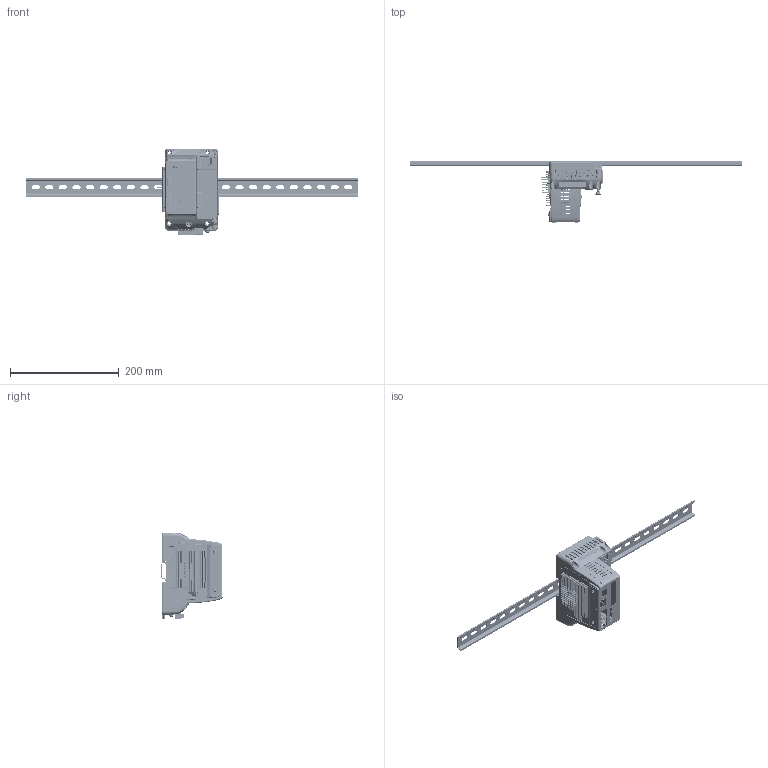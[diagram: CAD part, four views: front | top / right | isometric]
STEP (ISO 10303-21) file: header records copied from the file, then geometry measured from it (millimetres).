
FILE_DESCRIPTION(/* description */ ('Unknown'),/* implementation_level */ '2;1');
FILE_NAME(/* name */ 'GRAC0001',/* time_stamp */ '2017-04-12T13:36:36-04:00',/* author */ ('Unknown'),/* organization */ ('Unknown'),/* preprocessor_version */ 'ST-DEVELOPER v16.7',/* originating_system */ 'DEX',/* authorisation */ $);
FILE_SCHEMA (('AUTOMOTIVE_DESIGN {1 0 10303 214 3 1 1}'));
Products named in the file (55): GRAC0001; 10122; 10140; core bottom pad; Core Thermal Pad_oa_0; core Release Liner_oa_1; core Release Liner_oa_2; HWSCS032; 10147; HWRING04; HWM05062; HWSXCS20; DIN T Rail 6 IN; M5471 RevE full stack; BAL3R007; 10129; Extra large thermal pad; Release Liner; BGA-PP-025; 10137; Hub thermal pad; hub Release Liner; HWMROL16; M4885 RevG-2014-04-23; 10119; M547-only1; HWPC1501; HWPC2700; HWM05404; 10126; moduleassy; 10116; 10124; 10117; PEM SCBR-632-8 ZI -modules; CNTP0300; HWM05405; PB05452C; HWM05451; core top right  pad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
Assembly tree (82 placements, depth 3):
  GRAC0001
    10122
    10140
    core bottom pad
      Core Thermal Pad_oa_0
      core Release Liner_oa_1
      core Release Liner_oa_2
    HWSCS032  x2
    10147  x12
    HWRING04
    HWM05062
    HWSXCS20  x10
    DIN T Rail 6 IN
    M5471 RevE full stack
    BAL3R007
    10129
      Extra large thermal pad
      Release Liner
    BGA-PP-025
    10137
      Hub thermal pad
      hub Release Liner  x2
    HWMROL16  x4
    M4885 RevG-2014-04-23
    10119
    M547-only1
    HWPC1501  x2
    HWPC2700
    HWM05404
    10126
    moduleassy
    10116
    10124
    10117
    PEM SCBR-632-8 ZI -modules
    CNTP0300
    HWM05405
    PB05452C
    HWM05451
    core top right  pad
      Core Thermal Pad_oa_3
      core Release Liner_oa_4
      core Release Liner_oa_5
    PB05453C
    HWWFL004
    HWSMEZ08
      HWSMEP08
      HWWLE000
    core top left pad
      Core Thermal Pad_oa_6
      core Release Liner_oa_7
      core Release Liner_oa_8
    10141
    SSLB0033  x2
    SSLB0048  x2
Bounding box: 609.6 x 112.21 x 159.69 mm (x, y, z)
Volume: 313483.5 mm3; surface area: 373813.7 mm2
Topology: 73 solids, 74 shells, 10134 faces, 25758 edges, 15727 vertices
Faces by surface type: plane 3887, cylinder 3571, cone 1018, bspline 914, torus 404, sphere 340
Full cylindrical faces by diameter (mm): 1.65 x4, 1.651 x2, 1.75 x2, 1.8 x2, 2.156 x35, 2.387 x326, 2.56 x1, 2.647 x3, 2.845 x316, 3 x7, 3.048 x2, 3.2 x2, 3.277 x10, 3.307 x2, 3.5 x6, 3.505 x2, 3.556 x1, 3.696 x1, 3.962 x1, 4.1 x2, 4.166 x2, 5 x10, 5.41 x22, 5.8 x5, 6 x1, 6.35 x1, 6.42 x2, 6.5 x7, 6.6 x3, 6.68 x1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
Entity records: 262875 total; most frequent: CARTESIAN_POINT 64594, ORIENTED_EDGE 34416, DIRECTION 34087, EDGE_CURVE 17208, AXIS2_PLACEMENT_3D 12348, VERTEX_POINT 10757, LINE 9391, VECTOR 9391
